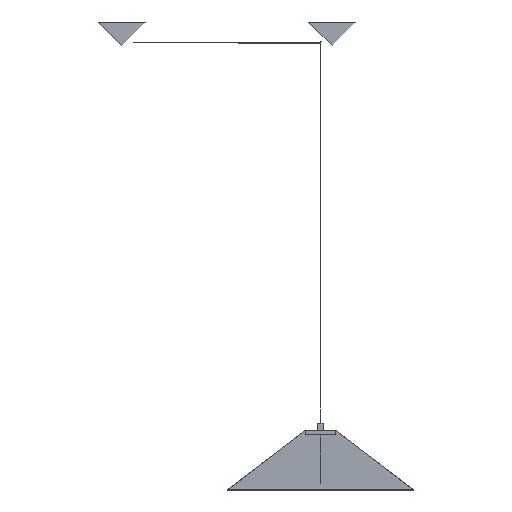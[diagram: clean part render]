
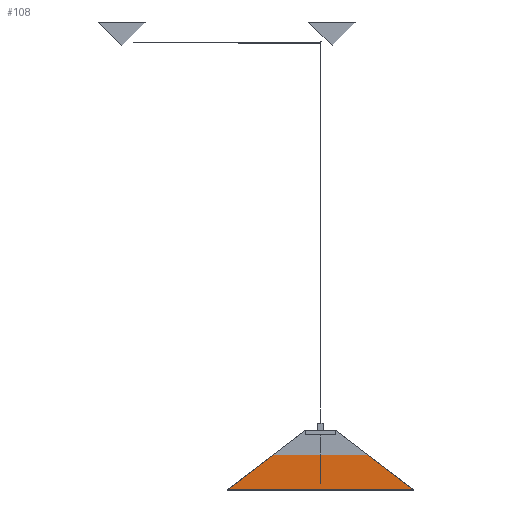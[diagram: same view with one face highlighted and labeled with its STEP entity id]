
A CAD part, left-side view. The second image highlights one B-rep face of the part: STEP entity #108.
In plain terms, the highlighted free-form (B-spline) face has degree [2, 1] with [5, 2] control points.
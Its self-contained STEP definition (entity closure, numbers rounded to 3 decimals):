
#108=ADVANCED_FACE('',(#147),#663,.T.);
#147=FACE_OUTER_BOUND('',#186,.T.);
#186=EDGE_LOOP('',(#225,#226,#227,#228));
#225=ORIENTED_EDGE('',*,*,#371,.T.);
#226=ORIENTED_EDGE('',*,*,#372,.T.);
#227=ORIENTED_EDGE('',*,*,#373,.T.);
#228=ORIENTED_EDGE('',*,*,#374,.T.);
#371=EDGE_CURVE('',#517,#518,#693,.T.);
#372=EDGE_CURVE('',#518,#519,#694,.T.);
#373=EDGE_CURVE('',#519,#520,#695,.T.);
#374=EDGE_CURVE('',#520,#517,#696,.T.);
#517=VERTEX_POINT('',#1024);
#518=VERTEX_POINT('',#1025);
#519=VERTEX_POINT('',#1026);
#520=VERTEX_POINT('',#1027);
#663=(
BOUNDED_SURFACE()
B_SPLINE_SURFACE(2,1,((#1014,#1015),(#1016,#1017),(#1018,#1019),(#1020,
#1021),(#1022,#1023)),.UNSPECIFIED.,.F.,.F.,.F.)
B_SPLINE_SURFACE_WITH_KNOTS((3,2,3),(2,2),(0.,522.2,1044.4),
(0.,352.767),.UNSPECIFIED.)
GEOMETRIC_REPRESENTATION_ITEM()
RATIONAL_B_SPLINE_SURFACE(((1.,1.),(0.707,0.707),
(1.,1.),(0.707,0.707),(1.,1.)))
REPRESENTATION_ITEM('')
SURFACE()
);
#693=(
BOUNDED_CURVE()
B_SPLINE_CURVE(2,(#1028,#1029,#1030,#1031,#1032),.UNSPECIFIED.,.F.,.F.)
B_SPLINE_CURVE_WITH_KNOTS((3,2,3),(0.,522.2,1044.4),
 .UNSPECIFIED.)
CURVE()
GEOMETRIC_REPRESENTATION_ITEM()
RATIONAL_B_SPLINE_CURVE((1.,0.707,1.,0.707,1.))
REPRESENTATION_ITEM('')
);
#694=(
BOUNDED_CURVE()
B_SPLINE_CURVE(1,(#1033,#1034),.UNSPECIFIED.,.F.,.F.)
B_SPLINE_CURVE_WITH_KNOTS((2,2),(0.,352.767),.UNSPECIFIED.)
CURVE()
GEOMETRIC_REPRESENTATION_ITEM()
RATIONAL_B_SPLINE_CURVE((1.,1.))
REPRESENTATION_ITEM('')
);
#695=(
BOUNDED_CURVE()
B_SPLINE_CURVE(2,(#1035,#1036,#1037,#1038,#1039),.UNSPECIFIED.,.F.,.F.)
B_SPLINE_CURVE_WITH_KNOTS((3,2,3),(-1044.4,-522.2,0.),
 .UNSPECIFIED.)
CURVE()
GEOMETRIC_REPRESENTATION_ITEM()
RATIONAL_B_SPLINE_CURVE((1.,0.707,1.,0.707,1.))
REPRESENTATION_ITEM('')
);
#696=(
BOUNDED_CURVE()
B_SPLINE_CURVE(1,(#1040,#1041),.UNSPECIFIED.,.F.,.F.)
B_SPLINE_CURVE_WITH_KNOTS((2,2),(-352.767,0.),.UNSPECIFIED.)
CURVE()
GEOMETRIC_REPRESENTATION_ITEM()
RATIONAL_B_SPLINE_CURVE((1.,1.))
REPRESENTATION_ITEM('')
);
#1014=CARTESIAN_POINT('',(0.,-222.972,-745.98));
#1015=CARTESIAN_POINT('',(0.,-3.13,-579.294));
#1016=CARTESIAN_POINT('',(-261.1,-222.972,-745.98));
#1017=CARTESIAN_POINT('',(-41.258,-3.13,-579.294));
#1018=CARTESIAN_POINT('',(-261.1,38.128,-745.98));
#1019=CARTESIAN_POINT('',(-41.258,38.128,-579.294));
#1020=CARTESIAN_POINT('',(-261.1,299.228,-745.98));
#1021=CARTESIAN_POINT('',(-41.258,79.387,-579.294));
#1022=CARTESIAN_POINT('',(0.,299.228,-745.98));
#1023=CARTESIAN_POINT('',(0.,79.387,-579.294));
#1024=CARTESIAN_POINT('',(0.,-222.972,-745.98));
#1025=CARTESIAN_POINT('',(0.,299.228,-745.98));
#1026=CARTESIAN_POINT('',(0.,79.387,-579.294));
#1027=CARTESIAN_POINT('',(0.,-3.13,-579.294));
#1028=CARTESIAN_POINT('',(0.,-222.972,-745.98));
#1029=CARTESIAN_POINT('',(-261.1,-222.972,-745.98));
#1030=CARTESIAN_POINT('',(-261.1,38.128,-745.98));
#1031=CARTESIAN_POINT('',(-261.1,299.228,-745.98));
#1032=CARTESIAN_POINT('',(0.,299.228,-745.98));
#1033=CARTESIAN_POINT('',(0.,299.228,-745.98));
#1034=CARTESIAN_POINT('',(0.,79.387,-579.294));
#1035=CARTESIAN_POINT('',(0.,79.387,-579.294));
#1036=CARTESIAN_POINT('',(-41.258,79.387,-579.294));
#1037=CARTESIAN_POINT('',(-41.258,38.128,-579.294));
#1038=CARTESIAN_POINT('',(-41.258,-3.13,-579.294));
#1039=CARTESIAN_POINT('',(0.,-3.13,-579.294));
#1040=CARTESIAN_POINT('',(0.,-3.13,-579.294));
#1041=CARTESIAN_POINT('',(0.,-222.972,-745.98));
